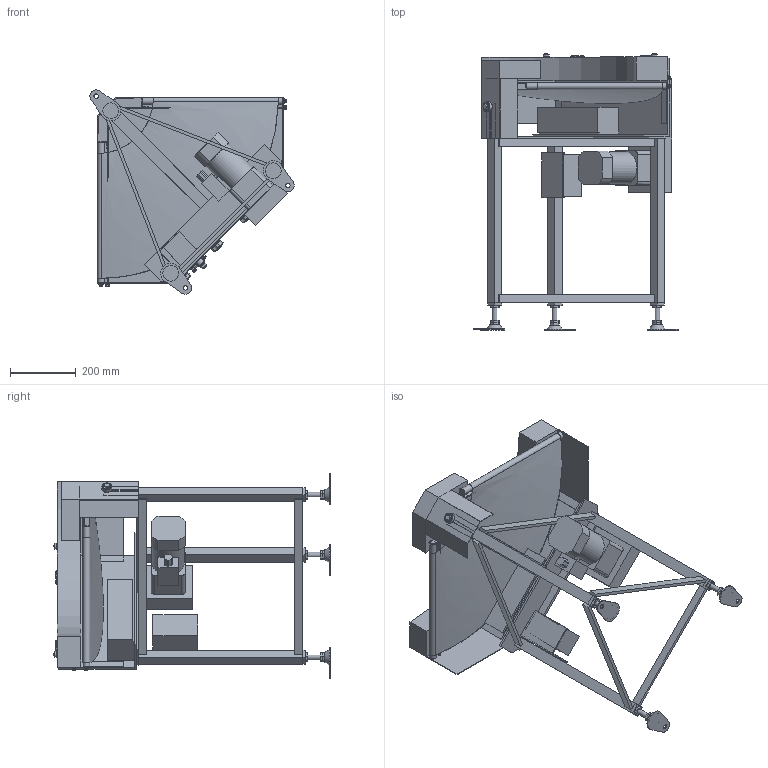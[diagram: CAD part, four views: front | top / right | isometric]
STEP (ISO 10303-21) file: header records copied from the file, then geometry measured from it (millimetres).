
FILE_DESCRIPTION (( 'STEP AP214' ), '1' );
FILE_NAME ('GBC90-UDH300-R.STEP', '2022-12-06T00:06:01', ( '' ), ( '' ), 'SwSTEP 2.0', 'SolidWorks 2017', '' );
FILE_SCHEMA (( 'AUTOMOTIVE_DESIGN' ));
Length unit declared in the file: millimetre
Products named in the file (1): GBC90-UDH300-R
Bounding box: 620.53 x 839.92 x 620.53 mm (x, y, z)
Volume: 19990445.9 mm3; surface area: 3312989.4 mm2
Topology: 55 solids, 55 shells, 851 faces, 1927 edges, 1246 vertices
Faces by surface type: plane 541, cylinder 166, cone 73, bspline 65, torus 4, sphere 2
Full cylindrical faces by diameter (mm): 4.2 x2, 5 x4, 6 x15, 6.4 x4, 7 x1, 8 x1, 9 x4, 10 x6, 12 x1, 12.2 x2, 12.5 x7, 13 x7, 15 x4, 16 x10, 18 x2, 18.4 x1, 20 x6, 21 x1, 22.2 x1, 23 x1, 25 x1, 30 x1, 99 x1
Entity records: 31057 total; most frequent: CARTESIAN_POINT 12329, ORIENTED_EDGE 3560, DIRECTION 3520, EDGE_CURVE 1780, AXIS2_PLACEMENT_3D 1221, VERTEX_POINT 1212, LINE 1078, VECTOR 1078
